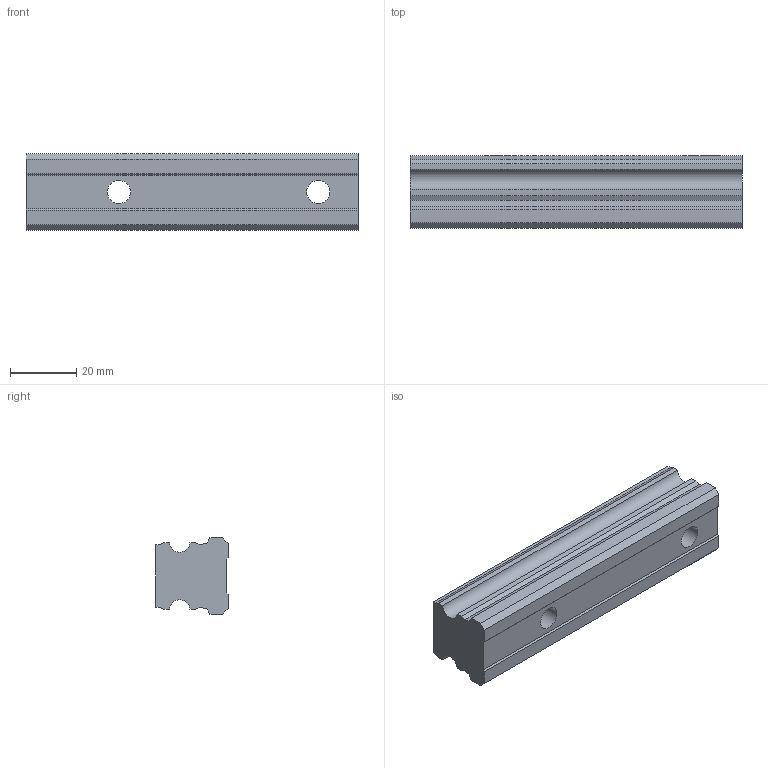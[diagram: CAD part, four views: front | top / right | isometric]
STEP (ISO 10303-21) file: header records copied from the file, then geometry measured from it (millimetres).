
FILE_DESCRIPTION( ( '' ), '1' );
FILE_NAME( 'c:/dr_tretter_step_out/schienenfuehrungen/alu_sf/a25_0100.stp', '2008-09-03T09:11:45', ( '' ), ( '' ), ' ', ' ', ' ' );
FILE_SCHEMA( ( 'CONFIG_CONTROL_DESIGN' ) );
Length unit declared in the file: millimetre
Products named in the file (1): 1
Bounding box: 100 x 21.8 x 23 mm (x, y, z)
Volume: 38843.9 mm3; surface area: 11064.9 mm2
Topology: 1 solids, 1 shells, 38 faces, 102 edges, 68 vertices
Faces by surface type: plane 28, cylinder 10
Entity records: 1238 total; most frequent: CARTESIAN_POINT 209, ORIENTED_EDGE 204, DIRECTION 200, EDGE_CURVE 102, LINE 82, VECTOR 82, VERTEX_POINT 68, AXIS2_PLACEMENT_3D 59
